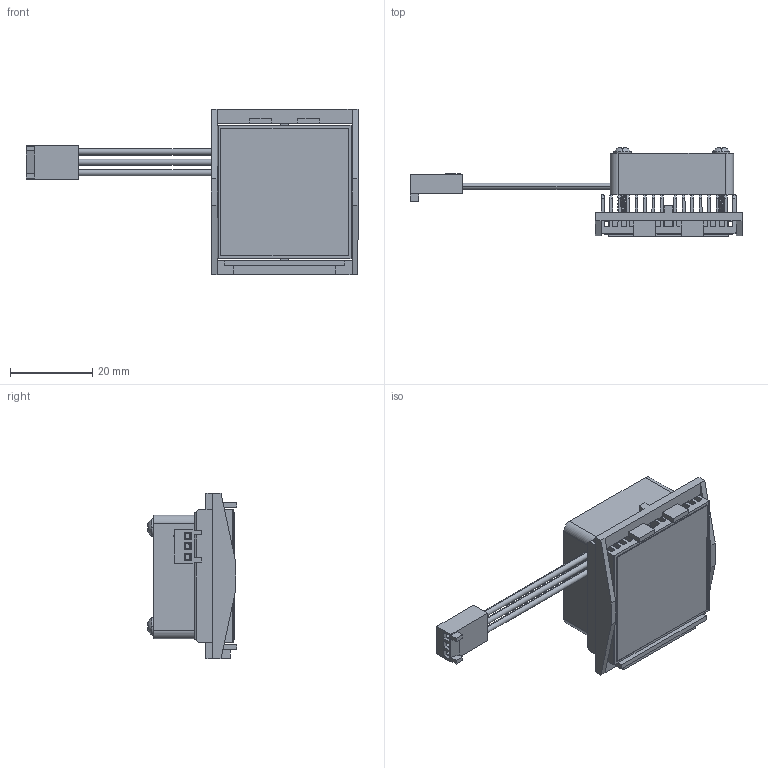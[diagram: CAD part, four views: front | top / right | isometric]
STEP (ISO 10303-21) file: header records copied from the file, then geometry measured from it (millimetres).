
FILE_DESCRIPTION (( 'STEP AP214' ), '1' );
FILE_NAME ('FI33-1.7+O.STEP', '2023-03-07T22:14:50', ( '' ), ( '' ), 'SwSTEP 2.0', 'SolidWorks 2020', '' );
FILE_SCHEMA (( 'AUTOMOTIVE_DESIGN' ));
Length unit declared in the file: millimetre
Products named in the file (1): FI33-1.7+O
Bounding box: 80.69 x 21.7 x 40.1 mm (x, y, z)
Volume: 10976.2 mm3; surface area: 20948.5 mm2
Topology: 8 solids, 8 shells, 884 faces, 2565 edges, 1704 vertices
Faces by surface type: cylinder 381, plane 329, bspline 118, cone 40, sphere 8, torus 8
Entity records: 64404 total; most frequent: CARTESIAN_POINT 34064, ORIENTED_EDGE 5130, DIRECTION 3463, EDGE_CURVE 2565, VERTEX_POINT 1704, LINE 1293, VECTOR 1293, AXIS2_PLACEMENT_3D 1085
